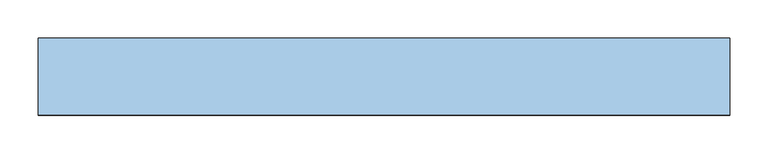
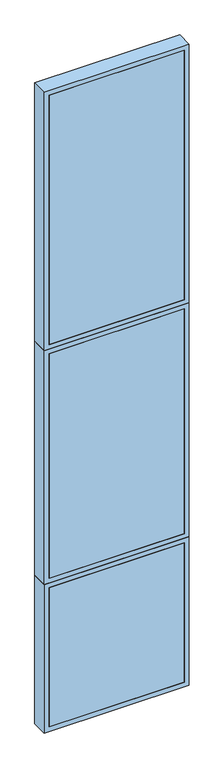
"""IFC4 building model written with IfcOpenShell, lengths in millimetres: window geometry, TRP_CP_ARC_FI_V1 : AL_P02_90_420."""

from ifc_helpers import new_model, si_unit, frame, origin, place, context, project, spatial, polyline, outline, extrude, source, transform, mapped, element, save


def window_a39038a6(model_context):
    return source(origin(), model_context, "Body", "SweptSolid", [
        extrude(outline(polyline([(420.0, -50.0), (-420.0, -50.0), (-420.0, -30.0), (420.0, -30.0), (420.0, -50.0)])), frame((0.0, 0.0, 30.0), z_axis=(0.0, 0.0, 1.0), x_axis=(1.0, 0.0, 0.0)), (0.0, 0.0, 1.0), 913.0),
        extrude(outline(polyline([(973.0, 450.0), (973.0, -450.0), (0.0, -450.0), (0.0, 450.0), (973.0, 450.0)]), holes=[polyline([(30.0, 420.0), (30.0, -420.0), (943.0, -420.0), (943.0, 420.0), (30.0, 420.0)])]), frame((0.0, -50.0, 0.0), z_axis=(0.0, 1.0, 0.0), x_axis=(0.0, 0.0, 1.0)), (0.0, 0.0, 1.0), 100.0),
        extrude(outline(polyline([(2506.0, 450.0), (2506.0, -450.0), (973.0, -450.0), (973.0, 450.0), (2506.0, 450.0)]), holes=[polyline([(1003.0, 420.0), (1003.0, -420.0), (2476.0, -420.0), (2476.0, 420.0), (1003.0, 420.0)])]), frame((0.0, -50.0, 0.0), z_axis=(0.0, 1.0, 0.0), x_axis=(0.0, 0.0, 1.0)), (0.0, 0.0, 1.0), 100.0),
        extrude(outline(polyline([(420.0, -50.0), (-420.0, -50.0), (-420.0, -30.0), (420.0, -30.0), (420.0, -50.0)])), frame((0.0, 0.0, 1003.0), z_axis=(0.0, 0.0, 1.0), x_axis=(1.0, 0.0, 0.0)), (0.0, 0.0, 1.0), 1473.0),
        extrude(outline(polyline([(4200.0, 450.0), (4200.0, -450.0), (2506.0, -450.0), (2506.0, 450.0), (4200.0, 450.0)]), holes=[polyline([(2536.0, 420.0), (2536.0, -420.0), (4170.0, -420.0), (4170.0, 420.0), (2536.0, 420.0)])]), frame((0.0, -50.0, 0.0), z_axis=(0.0, 1.0, 0.0), x_axis=(0.0, 0.0, 1.0)), (0.0, 0.0, 1.0), 100.0),
        extrude(outline(polyline([(420.0, -50.0), (-420.0, -50.0), (-420.0, -30.0), (420.0, -30.0), (420.0, -50.0)])), frame((0.0, 0.0, 2536.0), z_axis=(0.0, 0.0, 1.0), x_axis=(1.0, 0.0, 0.0)), (0.0, 0.0, 1.0), 1634.0),
    ])


if __name__ == "__main__":
    model = new_model("IFC4")
    model_context = context("Model", 3, world=origin())
    ifc_project = project(units=[si_unit("LENGTHUNIT", "METRE", prefix="MILLI")], contexts=[model_context])
    site = spatial("IfcSite", under=ifc_project)
    building = spatial("IfcBuilding", under=site)
    placement = place(None, origin())
    window_shape = window_a39038a6(model_context)
    element("IfcWindow", 1, ObjectType="TRP_CP_ARC_FI_V1 : AL_P02_90_420", at=placement, inside=building, context=model_context, shape_type="MappedRepresentation", body=[
        mapped(window_shape, transform((0.0, 0.0, 0.0), x_axis=(1.0, 0.0, 0.0), y_axis=(0.0, 1.0, 0.0), z_axis=(0.0, 0.0, 1.0))),
    ])
    save(model, "model.ifc")
